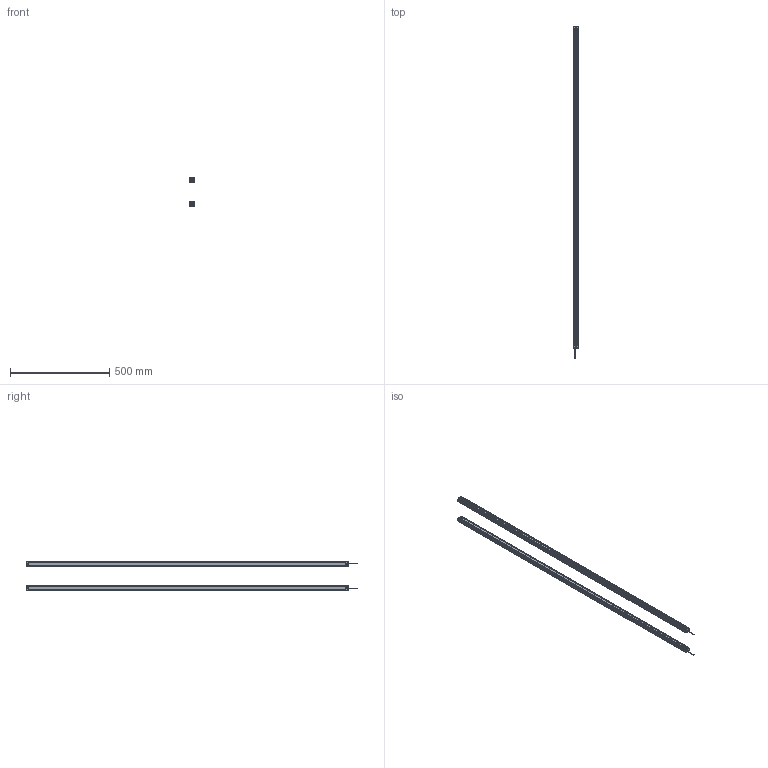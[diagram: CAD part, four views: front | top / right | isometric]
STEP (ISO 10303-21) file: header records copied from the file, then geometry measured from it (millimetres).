
FILE_DESCRIPTION(/* description */ (''),/* implementation_level */ '2;1');
FILE_NAME(/* name */ 'MTC4040.stp',/* time_stamp */ '2023-10-23T13:43:09+08:00',/* author */ (''),/* organization */ (''),/* preprocessor_version */ 'ST-DEVELOPER v16.7',/* originating_system */ 'SIEMENS PLM Software NX 12.0',/* authorisation */ '');
FILE_SCHEMA (('AP203_CONFIGURATION_CONTROLLED_3D_DESIGN_OF_MECHANICAL_PARTS_AND_ASSEMBLIES_MIM_LF { 1 0 10303 403 2 1 2}'));
Length unit declared in the file: millimetre
Products named in the file (5): P02^MTC; MTC waike^MTC; 镜向P02^MTC; P01^MTC; MTC3640_step
Assembly tree (6 placements, depth 2):
  MTC3640_step
    P01^MTC  x2
    镜向P02^MTC
    MTC waike^MTC  x2
    P02^MTC
Bounding box: 25 x 1672 x 141.4 mm (x, y, z)
Volume: 528778.2 mm3; surface area: 738396.8 mm2
Topology: 8 solids, 8 shells, 480 faces, 1396 edges, 924 vertices
Faces by surface type: plane 272, cylinder 208
Entity records: 11296 total; most frequent: DIRECTION 1877, CARTESIAN_POINT 1876, ORIENTED_EDGE 1846, EDGE_CURVE 923, AXIS2_PLACEMENT_3D 635, VERTEX_POINT 610, LINE 607, VECTOR 607
